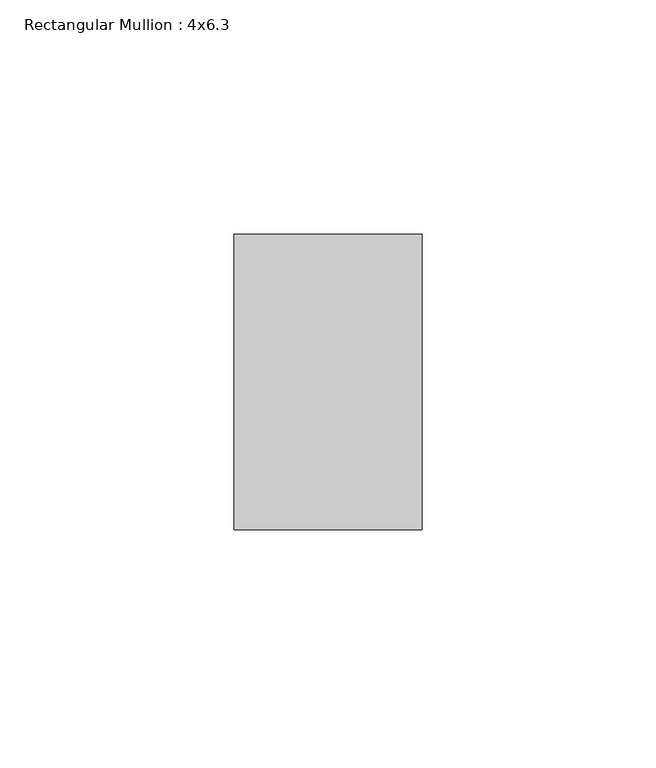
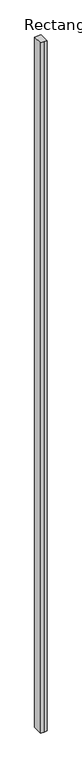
"""IFC4 building model written with IfcOpenShell, lengths in millimetres: member geometry, Rectangular Mullion : 4x6.3."""

from ifc_helpers import new_model, si_unit, frame, origin, place, context, project, spatial, polyline, outline, extrude, source, transform, mapped, element, save


def rectangular_mullion_4x6_3_ea74723c(model_context):
    return source(origin(), model_context, "Body", "SweptSolid", [
        extrude(outline(polyline([(-20.0, 20.0), (-20.0, 83.0), (20.0, 83.0), (20.0, 20.0), (0.0, 20.0), (-20.0, 20.0)])), frame((0.0, 0.0, -4488.2734984), z_axis=(0.0, 0.0, 1.0), x_axis=(1.0, 0.0, 0.0)), (0.0, 0.0, 1.0), 4488.2734984),
    ])


if __name__ == "__main__":
    model = new_model("IFC4")
    model_context = context("Model", 3, world=origin())
    ifc_project = project(units=[si_unit("LENGTHUNIT", "METRE", prefix="MILLI")], contexts=[model_context])
    site = spatial("IfcSite", under=ifc_project)
    building = spatial("IfcBuilding", under=site)
    placement = place(None, origin())
    rectangular_mullion_4x6_3_shape = rectangular_mullion_4x6_3_ea74723c(model_context)
    element("IfcMember", 1, ObjectType="Rectangular Mullion : 4x6.3", at=placement, inside=building, context=model_context, shape_type="MappedRepresentation", body=[
        mapped(rectangular_mullion_4x6_3_shape, transform((0.0, 0.0, 0.0), x_axis=(1.0, 0.0, 0.0), y_axis=(0.0, 1.0, 0.0), z_axis=(0.0, 0.0, 1.0))),
    ])
    save(model, "model.ifc")
